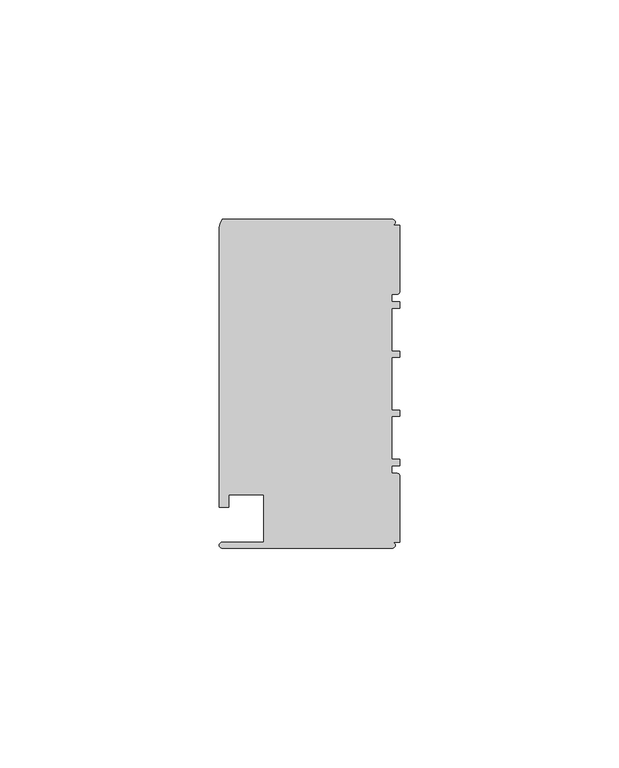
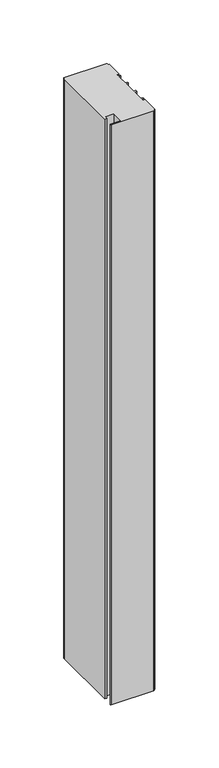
"""IFC4 building model written with IfcOpenShell, lengths in millimetres: member geometry, Прямоугольный импост : 1-AMG-1-Профиль 40Х75 Низ Л."""

from ifc_helpers import new_model, si_unit, point, frame, frame_2d, origin, place, context, project, spatial, polyline, circle_curve, trimmed, segment, composite_curve, outline, extrude, source, transform, mapped, element, save


def member_93659e9b(model_context):
    return source(origin(), model_context, "Body", "SweptSolid", [
        extrude(outline(composite_curve([segment(polyline([(-1.7, -37.5), (-40.4, -37.5)]), True, "CONTINUOUS"), segment(trimmed(circle_curve(frame_2d((-40.4, -36.8)), 0.7), [point((-40.4, -37.5))], [point((-40.4, -36.1))], False, "CARTESIAN"), True, "CONTINUOUS"), segment(polyline([(-40.4, -36.1), (-31.0, -36.1), (-31.0, -25.25), (-39.0, -25.25), (-39.0, -28.1), (-41.1, -28.1), (-41.1, 35.6)]), True, "CONTINUOUS"), segment(trimmed(circle_curve(frame_2d((-38.1714286, 35.6)), 2.9285714), [point((-41.1, 35.6))], [point((-40.4, 37.5))], False, "CARTESIAN"), True, "CONTINUOUS"), segment(polyline([(-40.4, 37.5), (-1.7, 37.5)]), True, "CONTINUOUS"), segment(trimmed(circle_curve(frame_2d((-1.7, 36.8)), 0.7), [point((-1.7, 37.5))], [point((-1.7, 36.1))], False, "CARTESIAN"), True, "CONTINUOUS"), segment(polyline([(-1.7, 36.1), (0.0, 36.1), (0.0, 20.95)]), True, "CONTINUOUS"), segment(trimmed(circle_curve(frame_2d((-0.5, 20.95)), 0.5), [point((0.0, 20.95))], [point((-0.5, 20.45))], False, "CARTESIAN"), True, "CONTINUOUS"), segment(polyline([(-0.5, 20.45), (-1.8, 20.45), (-1.8, 18.65), (0.0, 18.65), (0.0, 17.25), (-1.8, 17.25), (-1.8, 7.4), (0.0, 7.4), (0.0, 6.0), (-1.8, 6.0), (-1.8, -6.0), (0.0, -6.0), (0.0, -7.4), (-1.8, -7.4), (-1.8, -17.25), (0.0, -17.25), (0.0, -18.65), (-1.8, -18.65), (-1.8, -20.45), (-0.5, -20.45)]), True, "CONTINUOUS"), segment(trimmed(circle_curve(frame_2d((-0.5, -20.95)), 0.5), [point((-0.5, -20.45))], [point((0.0, -20.95))], False, "CARTESIAN"), True, "CONTINUOUS"), segment(polyline([(0.0, -20.95), (0.0, -36.1), (-1.7, -36.1)]), True, "CONTINUOUS"), segment(trimmed(circle_curve(frame_2d((-1.7, -36.8)), 0.7), [point((-1.7, -36.1))], [point((-1.7, -37.5))], False, "CARTESIAN"), True, "CONTINUOUS")], self_intersect=False)), frame((0.0, 0.0, -560.0), z_axis=(0.0, 0.0, 1.0), x_axis=(1.0, 0.0, 0.0)), (0.0, 0.0, 1.0), 560.0),
    ])


if __name__ == "__main__":
    model = new_model("IFC4")
    model_context = context("Model", 3, world=origin())
    ifc_project = project(units=[si_unit("LENGTHUNIT", "METRE", prefix="MILLI")], contexts=[model_context])
    site = spatial("IfcSite", under=ifc_project)
    building = spatial("IfcBuilding", under=site)
    placement = place(None, origin())
    member_shape = member_93659e9b(model_context)
    element("IfcMember", 1, ObjectType="Прямоугольный импост : 1-AMG-1-Профиль 40Х75 Низ Л", at=placement, inside=building, context=model_context, shape_type="MappedRepresentation", body=[
        mapped(member_shape, transform((0.0, 0.0, 0.0), x_axis=(1.0, 0.0, 0.0), y_axis=(0.0, 1.0, 0.0), z_axis=(0.0, 0.0, 1.0))),
    ])
    save(model, "model.ifc")
